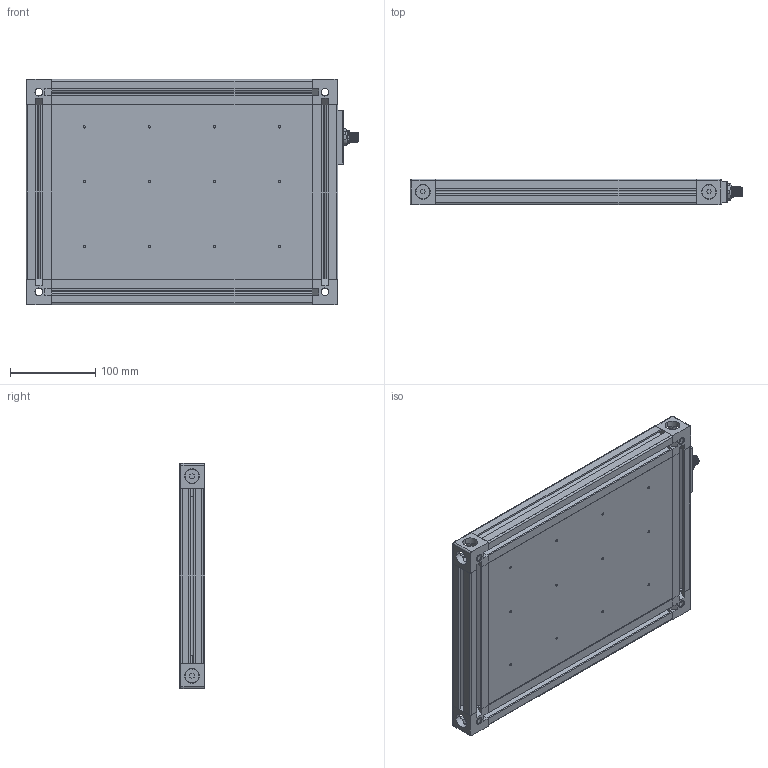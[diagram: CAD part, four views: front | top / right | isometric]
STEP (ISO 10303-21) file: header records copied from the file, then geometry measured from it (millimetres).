
FILE_DESCRIPTION (( 'STEP AP214' ), '1' );
FILE_NAME ('SOBL-300 X 200-REV2.step', '2020-11-05T12:37:12', ( '' ), ( '' ), 'SwSTEP 2.0', 'SolidWorks 2020', '' );
FILE_SCHEMA (( 'AUTOMOTIVE_DESIGN' ));
Length unit declared in the file: millimetre
Products named in the file (13): BAR-30_305.5; SOBL-BC_300X200-REV2; M12_Male_2; Screw holder_2; BAR-30_204; Input Mounting Plate_A_2; Screws -- short_FB08.0-015_2; M12 Nut_2; Corner Cube-30; Screws_FB08.0-015; SOBL-BP-(650-1200)_300X200-REV2; SOBL-300 X 200-REV2; Input Assembly_8
Assembly tree (26 placements, depth 3):
  SOBL-300 X 200-REV2
    Corner Cube-30  x4
    BAR-30_204  x2
    BAR-30_305.5  x2
    Screws_FB08.0-015  x8
    SOBL-BC_300X200-REV2
    SOBL-BP-(650-1200)_300X200-REV2
    Input Assembly_8
      M12_Male_2
      Input Mounting Plate_A_2
      Screws -- short_FB08.0-015_2  x2
      Screw holder_2  x2
      M12 Nut_2
Bounding box: 389.23 x 30 x 264 mm (x, y, z)
Volume: 817819.2 mm3; surface area: 663751.1 mm2
Topology: 25 solids, 26 shells, 1219 faces, 3332 edges, 2171 vertices
Faces by surface type: plane 538, cylinder 497, cone 82, bspline 74, sphere 28
Entity records: 44748 total; most frequent: CARTESIAN_POINT 25053, ORIENTED_EDGE 3894, DIRECTION 3620, EDGE_CURVE 1947, VERTEX_POINT 1281, AXIS2_PLACEMENT_3D 1266, LINE 1088, VECTOR 1088
